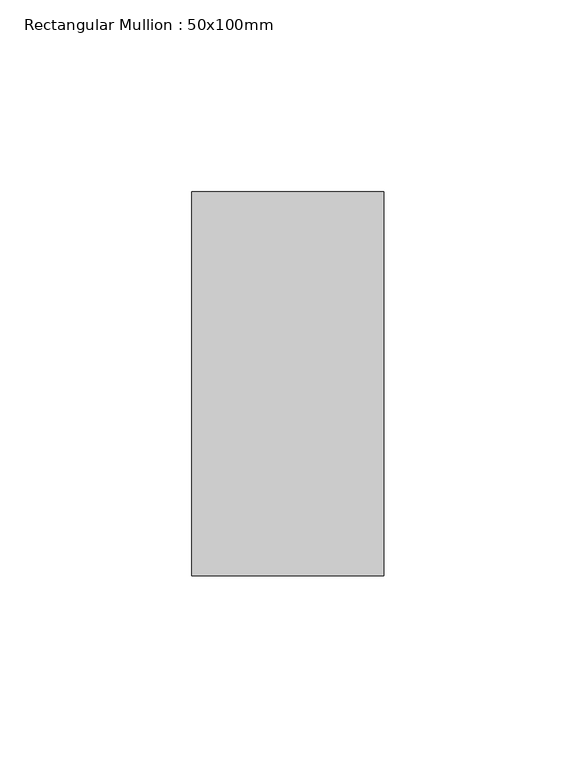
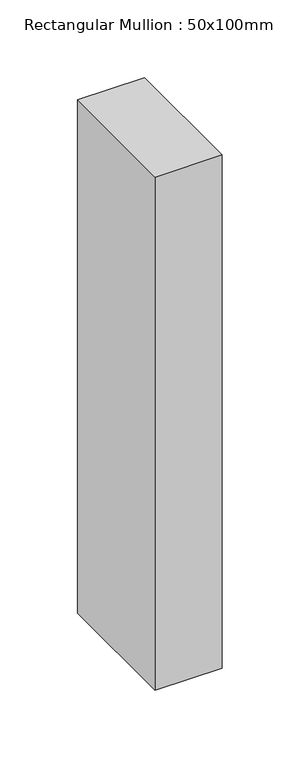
"""IFC4 building model written with IfcOpenShell, lengths in millimetres: member geometry, Rectangular Mullion : 50x100mm."""

from ifc_helpers import new_model, si_unit, frame, origin, place, context, project, spatial, polyline, outline, extrude, source, transform, mapped, element, save


def rectangular_mullion_50x100mm_a5ae20c4(model_context):
    return source(origin(), model_context, "Body", "SweptSolid", [
        extrude(outline(polyline([(0.0, 50.0), (0.0, -50.0), (-50.0, -50.0), (-50.0, 50.0), (0.0, 50.0)])), frame((0.0, 0.0, -403.6679794), z_axis=(0.0, 0.0, 1.0), x_axis=(1.0, 0.0, 0.0)), (0.0, 0.0, 1.0), 403.6679794),
    ])


if __name__ == "__main__":
    model = new_model("IFC4")
    model_context = context("Model", 3, world=origin())
    ifc_project = project(units=[si_unit("LENGTHUNIT", "METRE", prefix="MILLI")], contexts=[model_context])
    site = spatial("IfcSite", under=ifc_project)
    building = spatial("IfcBuilding", under=site)
    placement = place(None, origin())
    rectangular_mullion_50x100mm_shape = rectangular_mullion_50x100mm_a5ae20c4(model_context)
    element("IfcMember", 1, ObjectType="Rectangular Mullion : 50x100mm", at=placement, inside=building, context=model_context, shape_type="MappedRepresentation", body=[
        mapped(rectangular_mullion_50x100mm_shape, transform((0.0, 0.0, 0.0), x_axis=(1.0, 0.0, 0.0), y_axis=(0.0, 1.0, 0.0), z_axis=(0.0, 0.0, 1.0))),
    ])
    save(model, "model.ifc")
